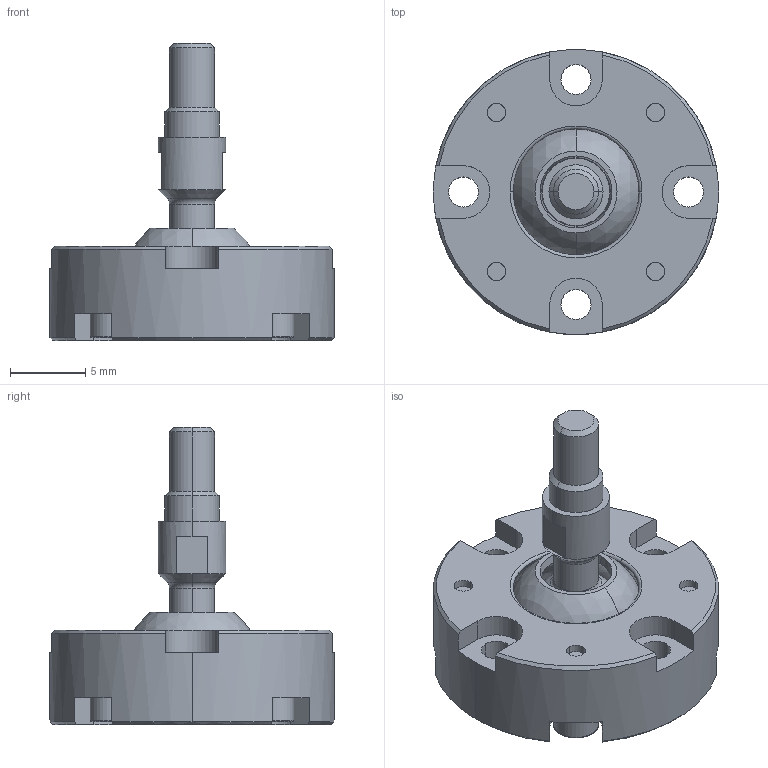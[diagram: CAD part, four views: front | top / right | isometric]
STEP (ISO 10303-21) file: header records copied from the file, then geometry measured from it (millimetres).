
FILE_DESCRIPTION (( 'STEP AP203' ), '1' );
FILE_NAME ('SRJ004CP.STEP', '2023-03-30T08:36:57', ( '' ), ( '' ), 'SwSTEP 2.0', 'SolidWorks 2023', '' );
FILE_SCHEMA (( 'CONFIG_CONTROL_DESIGN' ));
Length unit declared in the file: millimetre
Products named in the file (1): SRJ004CP
Bounding box: 19 x 18.96 x 19.8 mm (x, y, z)
Volume: 1622.6 mm3; surface area: 2168.5 mm2
Topology: 7 solids, 7 shells, 227 faces, 558 edges, 342 vertices
Faces by surface type: plane 100, cylinder 60, cone 35, torus 24, sphere 8
Entity records: 6632 total; most frequent: DIRECTION 1237, CARTESIAN_POINT 1136, ORIENTED_EDGE 1060, EDGE_CURVE 530, AXIS2_PLACEMENT_3D 495, VERTEX_POINT 330, CIRCLE 267, EDGE_LOOP 260
